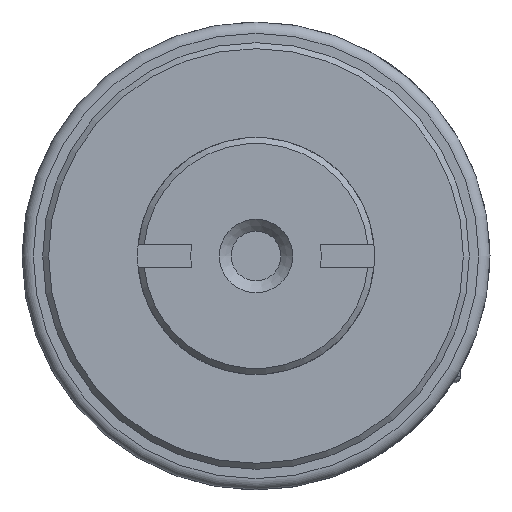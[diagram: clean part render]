
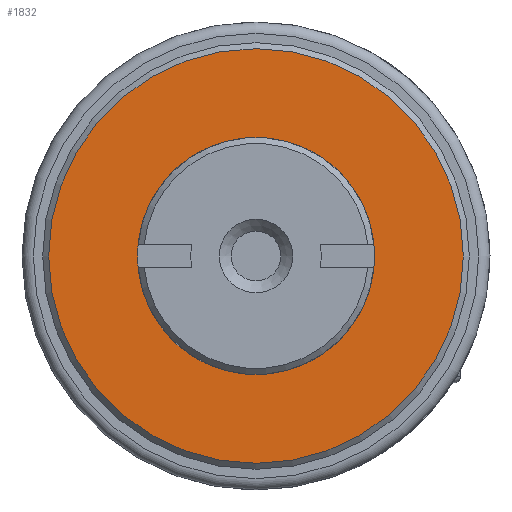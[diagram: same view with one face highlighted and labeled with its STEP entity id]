
A CAD part, left-side view. The second image highlights one B-rep face of the part: STEP entity #1832.
In plain terms, the highlighted planar face has unit normal (-1, 0, 0).
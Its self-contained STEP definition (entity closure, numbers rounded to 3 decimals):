
#94=PLANE('',#2039);
#494=ORIENTED_EDGE('',*,*,#878,.T.);
#495=ORIENTED_EDGE('',*,*,#879,.T.);
#878=EDGE_CURVE('',#1093,#1093,#1260,.T.);
#879=EDGE_CURVE('',#1094,#1094,#1261,.T.);
#1093=VERTEX_POINT('',#3014);
#1094=VERTEX_POINT('',#3017);
#1260=CIRCLE('',#2038,10.);
#1261=CIRCLE('',#2040,17.5);
#1416=EDGE_LOOP('',(#494));
#1417=EDGE_LOOP('',(#495));
#1632=FACE_BOUND('',#1416,.T.);
#1633=FACE_BOUND('',#1417,.T.);
#1832=ADVANCED_FACE('',(#1632,#1633),#94,.T.);
#2038=AXIS2_PLACEMENT_3D('',#3013,#2426,#2427);
#2039=AXIS2_PLACEMENT_3D('',#3015,#2428,#2429);
#2040=AXIS2_PLACEMENT_3D('',#3016,#2430,#2431);
#2426=DIRECTION('',(1.,0.,0.));
#2427=DIRECTION('',(0.,1.,0.));
#2428=DIRECTION('',(-1.,0.,0.));
#2429=DIRECTION('',(0.,-1.,0.));
#2430=DIRECTION('',(-1.,0.,0.));
#2431=DIRECTION('',(0.,-1.,0.));
#3013=CARTESIAN_POINT('',(-21.24,0.,0.));
#3014=CARTESIAN_POINT('',(-21.24,10.,0.));
#3015=CARTESIAN_POINT('',(-21.24,18.,0.));
#3016=CARTESIAN_POINT('',(-21.24,0.,0.));
#3017=CARTESIAN_POINT('',(-21.24,-17.5,0.));
